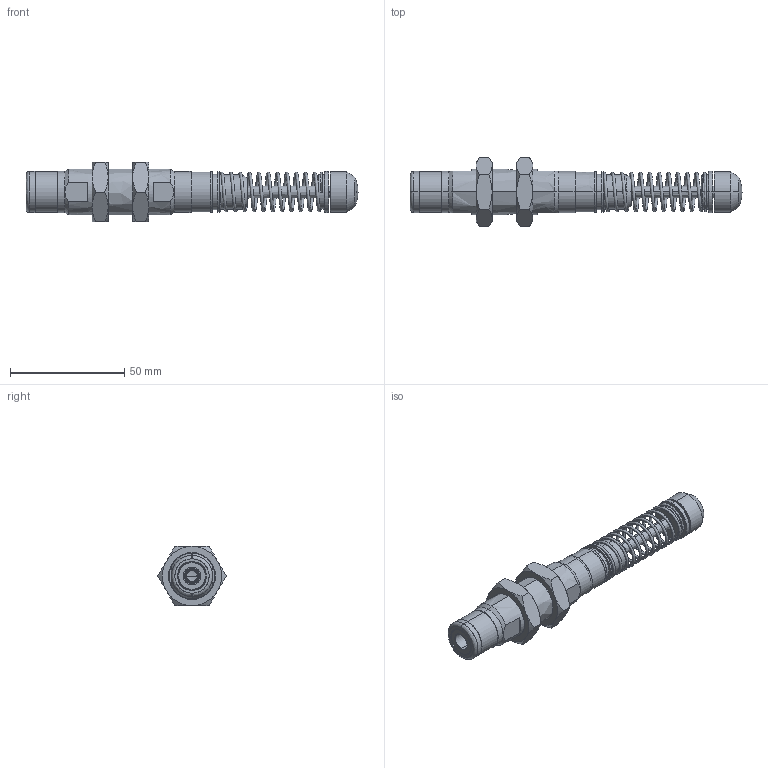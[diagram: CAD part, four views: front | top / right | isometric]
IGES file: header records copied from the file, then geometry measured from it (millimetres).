
Start section: SolidWorks IGES file using analytic representation for surfaces
Global section: file name: D:\IGS跡宒\AC2030-16K(18K).IGS,1; native system: 5HSolidWorks 2013; preprocessor: SolidWorks 2013; author: Administrator; date: 160920.093602; units: inch
Bounding box: 145.6 x 30.02 x 26 mm (x, y, z)
Surface area: 14008.1 mm2 (no closed solid volume)
Topology: 0 solids, 0 shells, 139 faces, 2316 edges, 2315 vertices
Faces by surface type: revolution 92, bspline 47
